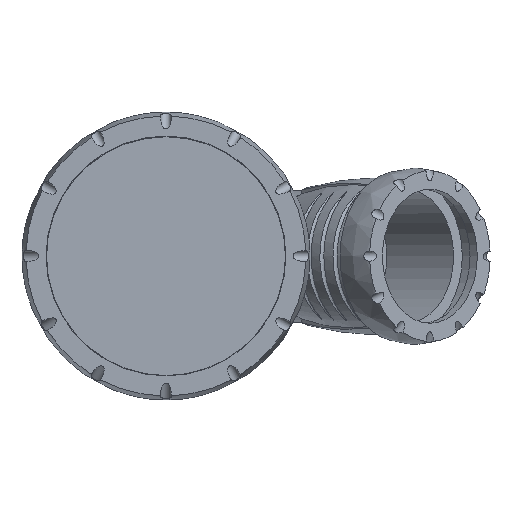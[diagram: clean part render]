
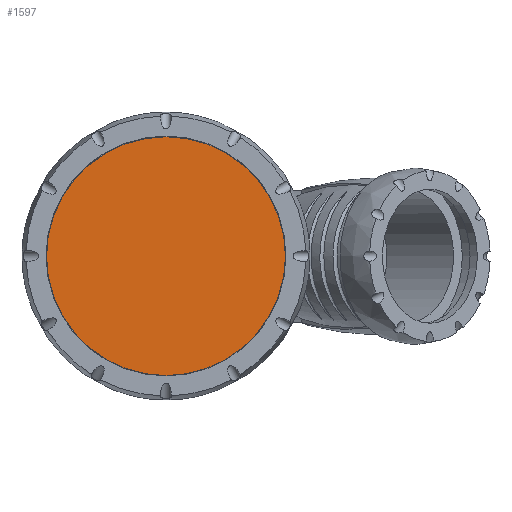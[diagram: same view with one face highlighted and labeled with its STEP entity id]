
A CAD part, top view. The second image highlights one B-rep face of the part: STEP entity #1597.
In plain terms, the highlighted planar face has unit normal (0, 0, 1).
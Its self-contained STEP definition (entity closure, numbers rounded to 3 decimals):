
#218=PLANE('',#1722);
#293=FACE_OUTER_BOUND('',#400,.T.);
#400=EDGE_LOOP('',(#1017));
#534=CIRCLE('',#1723,45.45);
#608=VERTEX_POINT('',#2298);
#778=EDGE_CURVE('',#608,#608,#534,.T.);
#1017=ORIENTED_EDGE('',*,*,#778,.T.);
#1597=ADVANCED_FACE('',(#293),#218,.T.);
#1722=AXIS2_PLACEMENT_3D('',#2297,#1906,#1907);
#1723=AXIS2_PLACEMENT_3D('',#2299,#1908,#1909);
#1906=DIRECTION('center_axis',(0.,0.,
1.));
#1907=DIRECTION('ref_axis',(0.,1.,0.));
#1908=DIRECTION('center_axis',(0.,0.,
1.));
#1909=DIRECTION('ref_axis',(0.,1.,0.));
#2297=CARTESIAN_POINT('Origin',(0.,0.,
142.));
#2298=CARTESIAN_POINT('',(-45.45,0.,142.));
#2299=CARTESIAN_POINT('Origin',(0.,0.,
142.));
